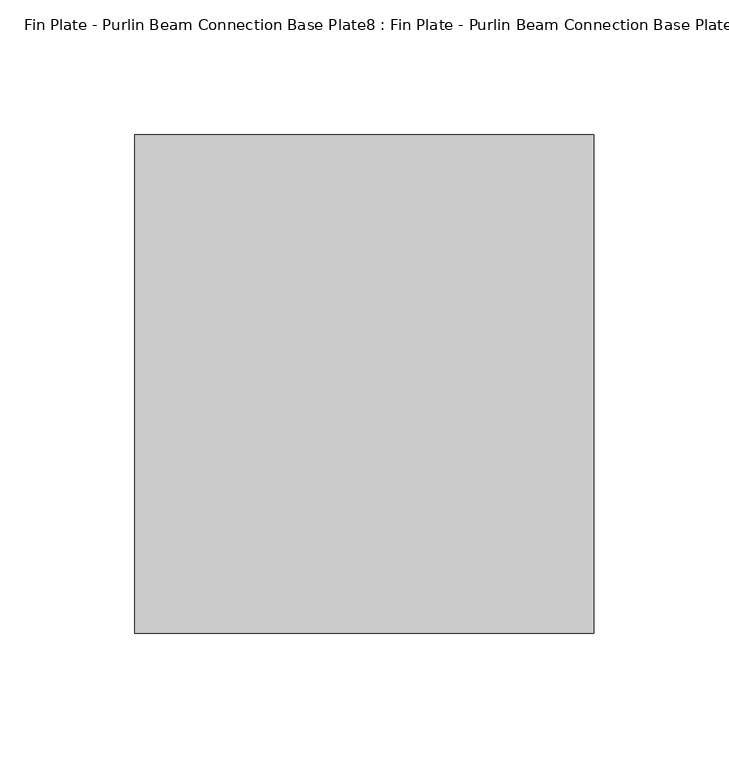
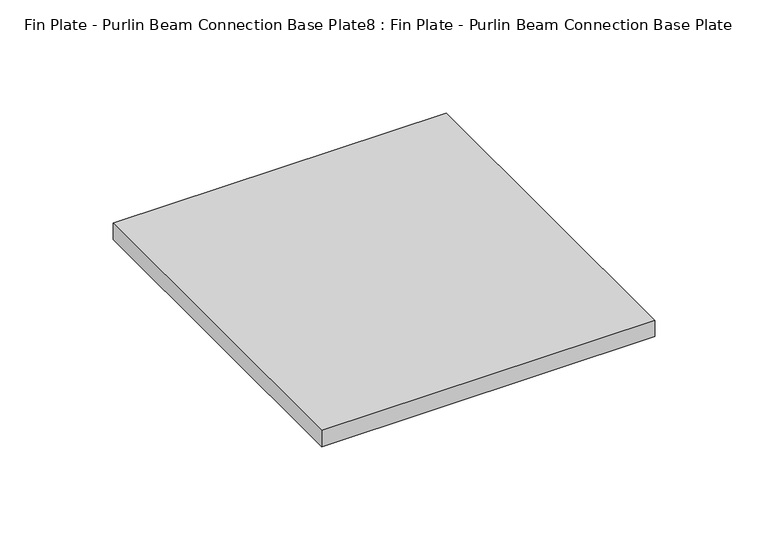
"""IFC4 building model written with IfcOpenShell, lengths in millimetres: proxy geometry, Fin Plate - Purlin Beam Connection Base Plate8 : Fin Plate - Purlin Beam Connection Base Plate."""

from ifc_helpers import new_model, si_unit, frame, origin, place, context, project, spatial, polyline, outline, extrude, source, transform, mapped, element, save


def fin_plate_purlin_beam_connection_base_plate8_fin_plate_71e1d856(model_context):
    return source(origin(), model_context, "Body", "SweptSolid", [
        extrude(outline(polyline([(-29526.0036256, 10790.0549517), (-29526.0036256, 10974.6549517), (-29356.0036256, 10974.6549517), (-29356.0036256, 10790.0549517), (-29526.0036256, 10790.0549517)])), frame((0.0, 0.0, 2418.1960911), z_axis=(0.0, 0.0, 1.0), x_axis=(1.0, 0.0, 0.0)), (0.0, 0.0, 1.0), 8.8039089),
    ])


if __name__ == "__main__":
    model = new_model("IFC4")
    model_context = context("Model", 3, world=origin())
    ifc_project = project(units=[si_unit("LENGTHUNIT", "METRE", prefix="MILLI")], contexts=[model_context])
    site = spatial("IfcSite", under=ifc_project)
    building = spatial("IfcBuilding", under=site)
    placement = place(None, origin())
    fin_plate_purlin_beam_connection_base_plate8_fin_plate_shape = fin_plate_purlin_beam_connection_base_plate8_fin_plate_71e1d856(model_context)
    element("IfcBuildingElementProxy", 1, Name="Fin Plate - Purlin Beam Connection Base Plate8 : Fin Plate - Purlin Beam Connection Base Plate", ObjectType="Fin Plate - Purlin Beam Connection Base Plate8 : Fin Plate - Purlin Beam Connection Base Plate", at=placement, inside=building, context=model_context, shape_type="MappedRepresentation", body=[
        mapped(fin_plate_purlin_beam_connection_base_plate8_fin_plate_shape, transform((0.0, 0.0, 0.0), x_axis=(1.0, 0.0, 0.0), y_axis=(0.0, 1.0, 0.0), z_axis=(0.0, 0.0, 1.0))),
    ])
    save(model, "model.ifc")
